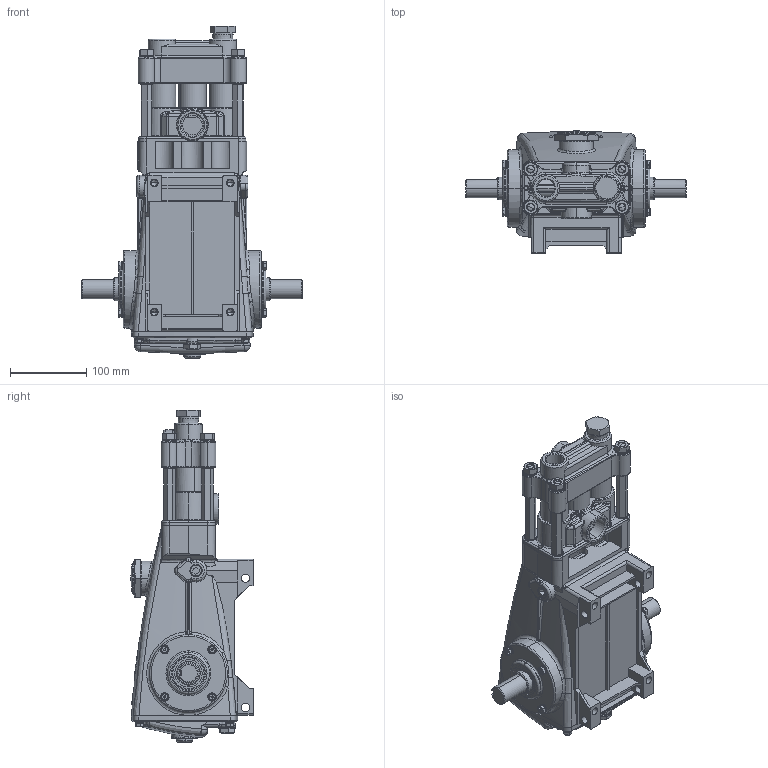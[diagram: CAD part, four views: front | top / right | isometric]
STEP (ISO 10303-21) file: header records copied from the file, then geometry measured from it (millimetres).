
FILE_DESCRIPTION (( 'STEP AP214' ), '1' );
FILE_NAME ('623.STEP', '2012-11-26T10:02:22', ( '' ), ( '' ), 'SwSTEP 2.0', 'SolidWorks 2012', '' );
FILE_SCHEMA (( 'AUTOMOTIVE_DESIGN' ));
Length unit declared in the file: millimetre
Products named in the file (1): 623
Bounding box: 290.5 x 160.57 x 436.5 mm (x, y, z)
Volume: 2369853.6 mm3; surface area: 553329.1 mm2
Topology: 1 solids, 33 shells, 3957 faces, 10104 edges, 6363 vertices
Faces by surface type: plane 1665, cylinder 899, bspline 564, torus 435, cone 375, sphere 19
Entity records: 174491 total; most frequent: CARTESIAN_POINT 52323, ORIENTED_EDGE 20028, DIRECTION 18111, EDGE_CURVE 10014, AXIS2_PLACEMENT_3D 6541, VERTEX_POINT 6357, LINE 5029, VECTOR 5029
